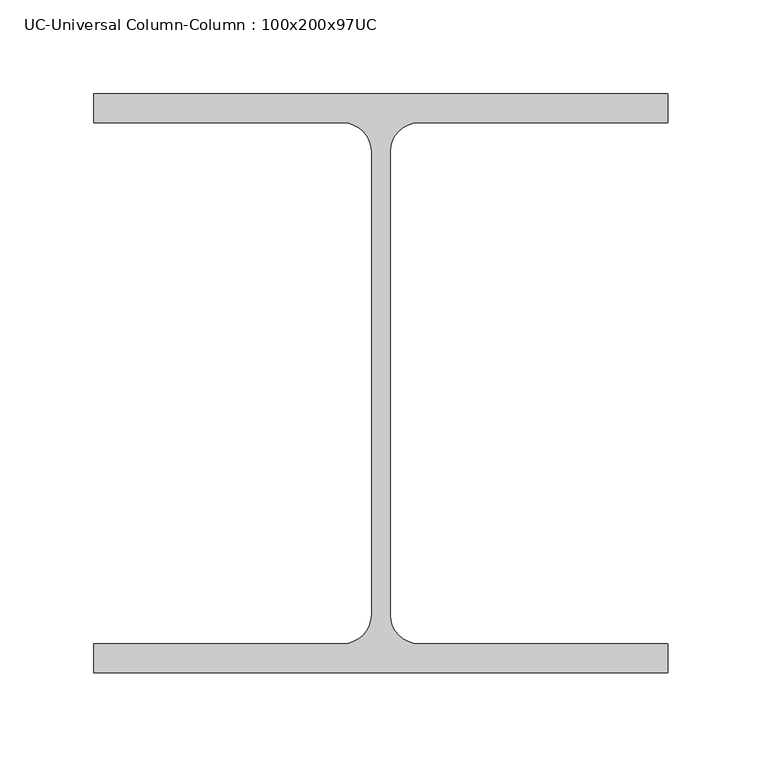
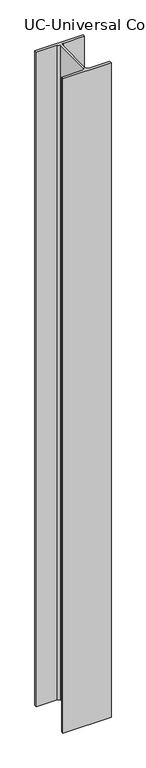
"""IFC4 building model written with IfcOpenShell, lengths in millimetres: column geometry, UC-Universal Column-Column : 100x200x97UC."""

import ifcopenshell
import ifcopenshell.guid

model = None  # the IFC model being written
_history = None  # IfcOwnerHistory: only IFC2X3 demands one
_inside = {}  # id of a spatial element -> (the spatial element, [elements in it])
_under = {}  # id of a project, library or spatial element -> (it, [spatial elements below it])
_declared = {}  # id of a project -> (the project, [libraries it declares])
_typed = {}  # id of a type object -> (the type object, [elements of that type])
_made_of = {}  # id of a material, layer set ... -> (it, [elements and type objects made of it])


def new_model(schema):
    """Start an empty IFC model of exactly this schema.

    Asked for "IFC4X3", IfcOpenShell would pick the latest addendum, in which some entities
    have other attributes; the version numbers below select the first issue.
    IFC2X3 requires an IfcOwnerHistory on every rooted entity: one is made here for all.
    """
    global model, _history
    if schema == "IFC4X3":
        model = ifcopenshell.file(schema_version=(4, 3, 0, 0))
    else:
        model = ifcopenshell.file(schema=schema)
    _inside.clear()
    _under.clear()
    _declared.clear()
    _typed.clear()
    _made_of.clear()
    _history = None
    if model.schema == "IFC2X3":
        org = make("IfcOrganization", Name="unknown")
        user = make(
            "IfcPersonAndOrganization",
            ThePerson=make("IfcPerson", FamilyName="unknown"),
            TheOrganization=org,
        )
        app = make(
            "IfcApplication",
            ApplicationDeveloper=org,
            Version="unknown",
            ApplicationFullName="unknown",
            ApplicationIdentifier="unknown",
        )
        _history = make(
            "IfcOwnerHistory",
            OwningUser=user,
            OwningApplication=app,
            ChangeAction="ADDED",
            CreationDate=0,
        )
    return model


def make(cls, **values):
    """One entity of the class cls with the attributes given. An attribute that is None is left unset."""
    return model.create_entity(
        cls, **{name: value for name, value in values.items() if value is not None}
    )


def rooted(cls, **values):
    """An entity with a GlobalId (a new one), such as an element, a storey or a relation."""
    return make(cls, GlobalId=ifcopenshell.guid.new(), OwnerHistory=_history, **values)


def si_unit(unit_type, name, prefix=None):
    """IfcSIUnit, for example si_unit("LENGTHUNIT", "METRE", prefix="MILLI")."""
    return make("IfcSIUnit", UnitType=unit_type, Prefix=prefix, Name=name)


def assignment(units):
    """IfcUnitAssignment: the units of a project."""
    return None if units is None else make("IfcUnitAssignment", Units=units)


def point(xyz):
    """IfcCartesianPoint."""
    return None if xyz is None else make("IfcCartesianPoint", Coordinates=xyz)


def direction(xyz):
    """IfcDirection."""
    return None if xyz is None else make("IfcDirection", DirectionRatios=xyz)


def frame(location, z_axis=None, x_axis=None):
    """IfcAxis2Placement3D, a coordinate frame: its origin and axes. An axis left out is left unset."""
    return make(
        "IfcAxis2Placement3D",
        Location=point(location),
        Axis=direction(z_axis),
        RefDirection=direction(x_axis),
    )


def frame_2d(location, x_axis=None):
    """IfcAxis2Placement2D, a coordinate frame in the plane: its origin and x axis."""
    return make(
        "IfcAxis2Placement2D", Location=point(location), RefDirection=direction(x_axis)
    )


def origin():
    """The frame at (0, 0, 0) with its axes left unset."""
    return frame((0.0, 0.0, 0.0))


def origin_with_axes():
    """The frame at (0, 0, 0) with the z axis (0, 0, 1) and the x axis (1, 0, 0) written out."""
    return frame((0.0, 0.0, 0.0), z_axis=(0.0, 0.0, 1.0), x_axis=(1.0, 0.0, 0.0))


def place(relative_to, where):
    """IfcLocalPlacement: puts the frame where relative to a parent placement (None: the world)."""
    return make(
        "IfcLocalPlacement", PlacementRelTo=relative_to, RelativePlacement=where
    )


def context(
    kind, dimensions, precision=None, world=None, true_north=None, identifier=None
):
    """IfcGeometricRepresentationContext, for example the 3D "Model" context."""
    return make(
        "IfcGeometricRepresentationContext",
        ContextIdentifier=identifier,
        ContextType=kind,
        CoordinateSpaceDimension=dimensions,
        Precision=precision,
        WorldCoordinateSystem=world,
        TrueNorth=true_north,
    )


def project(units=None, contexts=None):
    """IfcProject with its units and contexts."""
    return rooted(
        "IfcProject",
        Name="project",
        RepresentationContexts=contexts,
        UnitsInContext=assignment(units),
    )


def spatial(cls, under=None, at=None, **own):
    """A site, building, storey or space (cls), placed at a placement, below another one or the project."""
    s = rooted(cls, ObjectPlacement=at, **own)
    if under is not None:
        _under.setdefault(under.id(), (under, []))[1].append(s)
    return s


def polyline(points):
    """IfcPolyline through the points."""
    return make("IfcPolyline", Points=[point(p) for p in points])


def circle_curve(where, radius):
    """IfcCircle in the frame where."""
    return make("IfcCircle", Position=where, Radius=radius)


def trimmed(basis, trim1, trim2, sense, master):
    """IfcTrimmedCurve: the piece of a basis curve between two trims."""
    return make(
        "IfcTrimmedCurve",
        BasisCurve=basis,
        Trim1=trim1,
        Trim2=trim2,
        SenseAgreement=sense,
        MasterRepresentation=master,
    )


def segment(curve, same_sense, transition):
    """IfcCompositeCurveSegment."""
    return make(
        "IfcCompositeCurveSegment",
        Transition=transition,
        SameSense=same_sense,
        ParentCurve=curve,
    )


def composite_curve(segments, self_intersect=None):
    """IfcCompositeCurve: segments joined end to end."""
    return make("IfcCompositeCurve", Segments=segments, SelfIntersect=self_intersect)


def outline(outer, holes=None, kind="AREA"):
    """IfcArbitraryClosedProfileDef: a profile drawn as a closed curve; with holes, ...WithVoids."""
    if holes is None:
        return make("IfcArbitraryClosedProfileDef", ProfileType=kind, OuterCurve=outer)
    return make(
        "IfcArbitraryProfileDefWithVoids",
        ProfileType=kind,
        OuterCurve=outer,
        InnerCurves=holes,
    )


def extrude(swept, where, along, depth):
    """IfcExtrudedAreaSolid: the profile swept, set in the frame where, extruded along a direction by depth."""
    return make(
        "IfcExtrudedAreaSolid",
        SweptArea=swept,
        Position=where,
        ExtrudedDirection=direction(along),
        Depth=depth,
    )


def shape(context_of_items, identifier, shape_type, items):
    """IfcShapeRepresentation: the items that make up one representation, for example the "Body"."""
    return make(
        "IfcShapeRepresentation",
        ContextOfItems=context_of_items,
        RepresentationIdentifier=identifier,
        RepresentationType=shape_type,
        Items=items,
    )


def source(mapping_origin, context_of_items, identifier, shape_type, items):
    """IfcRepresentationMap: a shape defined once, which mapped items show again and again."""
    return make(
        "IfcRepresentationMap",
        MappingOrigin=mapping_origin,
        MappedRepresentation=shape(context_of_items, identifier, shape_type, items),
    )


def transform(
    local_origin,
    x_axis=None,
    y_axis=None,
    z_axis=None,
    scale=None,
    scale2=None,
    scale3=None,
    uniform=True,
):
    """IfcCartesianTransformationOperator3D, or its non-uniform kind. x_axis, y_axis, z_axis: its Axis1, 2, 3."""
    if uniform:
        return make(
            "IfcCartesianTransformationOperator3D",
            Axis1=direction(x_axis),
            Axis2=direction(y_axis),
            LocalOrigin=point(local_origin),
            Scale=scale,
            Axis3=direction(z_axis),
        )
    return make(
        "IfcCartesianTransformationOperator3DnonUniform",
        Axis1=direction(x_axis),
        Axis2=direction(y_axis),
        LocalOrigin=point(local_origin),
        Scale=scale,
        Axis3=direction(z_axis),
        Scale2=scale2,
        Scale3=scale3,
    )


def mapped(mapping_source, mapping_target):
    """IfcMappedItem: shows the shape of a source again, moved by a transform."""
    return make(
        "IfcMappedItem", MappingSource=mapping_source, MappingTarget=mapping_target
    )


def made_of(thing, what):
    """Note that an element or type object is made of a material, layer set ...; save() writes the relation."""
    if what is not None:
        _made_of.setdefault(what.id(), (what, []))[1].append(thing)
    return thing


def element(
    cls,
    number,
    at=None,
    inside=None,
    cuts=None,
    type_object=None,
    material=None,
    context=None,
    identifier="Body",
    shape_type=None,
    held_by="IfcProductDefinitionShape",
    body=None,
    shapes=None,
    **own,
):
    """One element of the class cls, such as IfcWall. Its Tag is "e" and its number.

    at: its placement. inside: the storey or other place that contains it. cuts: it is an
    opening in that element (IfcRelVoidsElement). A single representation is given by context,
    identifier, shape_type and body (its items); several are given by shapes. held_by: the class
    of the entity that holds the representations. save() writes the other relations.
    """
    e = rooted(cls, Tag="e%d" % number, ObjectPlacement=at, **own)
    if body is not None:
        shapes = [shape(context, identifier, shape_type, body)]
    if shapes is not None:
        e.Representation = make(held_by, Representations=shapes)
    if inside is not None:
        _inside.setdefault(inside.id(), (inside, []))[1].append(e)
    if cuts is not None:
        rooted(
            "IfcRelVoidsElement", RelatingBuildingElement=cuts, RelatedOpeningElement=e
        )
    if type_object is not None:
        _typed.setdefault(type_object.id(), (type_object, []))[1].append(e)
    return made_of(e, material)


def aggregate(whole, parts):
    """IfcRelAggregates: a whole, such as a stair, and the parts it consists of."""
    return rooted("IfcRelAggregates", RelatingObject=whole, RelatedObjects=parts)


def save(model, path):
    """Write the relations noted so far, then the file.

    IfcRelAggregates (storeys below a building ...), IfcRelContainedInSpatialStructure (elements
    in a storey), IfcRelDefinesByType, IfcRelAssociatesMaterial and IfcRelDeclares: one each for
    every whole, place, type object, material and project.
    """
    for whole, parts in _under.values():
        aggregate(whole, parts)
    for where, things in _inside.values():
        rooted(
            "IfcRelContainedInSpatialStructure",
            RelatedElements=things,
            RelatingStructure=where,
        )
    for kind, things in _typed.values():
        rooted("IfcRelDefinesByType", RelatedObjects=things, RelatingType=kind)
    for what, things in _made_of.values():
        rooted("IfcRelAssociatesMaterial", RelatedObjects=things, RelatingMaterial=what)
    for by, libraries in _declared.values():
        rooted("IfcRelDeclares", RelatingContext=by, RelatedDefinitions=libraries)
    model.write(path)


def uc_universal_column_column_100x200x97uc_c23a1a0a(model_context):
    return source(origin(), model_context, "Body", "SweptSolid", [
        extrude(outline(composite_curve([segment(polyline([(152.65, 153.95), (152.65, 138.55), (20.15, 138.55)]), True, "CONTINUOUS"), segment(trimmed(circle_curve(frame_2d((20.15, 123.35)), 15.2), [point((20.15, 138.55))], [point((4.95, 123.35))], True, "CARTESIAN"), True, "CONTINUOUS"), segment(polyline([(4.95, 123.35), (4.95, -123.35)]), True, "CONTINUOUS"), segment(trimmed(circle_curve(frame_2d((20.15, -123.35)), 15.2), [point((4.95, -123.35))], [point((20.15, -138.55))], True, "CARTESIAN"), True, "CONTINUOUS"), segment(polyline([(20.15, -138.55), (152.65, -138.55), (152.65, -153.95), (-152.65, -153.95), (-152.65, -138.55), (-20.15, -138.55)]), True, "CONTINUOUS"), segment(trimmed(circle_curve(frame_2d((-20.15, -123.35)), 15.2), [point((-20.15, -138.55))], [point((-4.95, -123.35))], True, "CARTESIAN"), True, "CONTINUOUS"), segment(polyline([(-4.95, -123.35), (-4.95, 123.35)]), True, "CONTINUOUS"), segment(trimmed(circle_curve(frame_2d((-20.15, 123.35)), 15.2), [point((-4.95, 123.35))], [point((-20.15, 138.55))], True, "CARTESIAN"), True, "CONTINUOUS"), segment(polyline([(-20.15, 138.55), (-152.65, 138.55), (-152.65, 153.95), (152.65, 153.95)]), True, "CONTINUOUS")], self_intersect=False)), origin_with_axes(), (0.0, 0.0, 1.0), 4390.0),
    ])


if __name__ == "__main__":
    model = new_model("IFC4")
    model_context = context("Model", 3, world=origin())
    ifc_project = project(units=[si_unit("LENGTHUNIT", "METRE", prefix="MILLI")], contexts=[model_context])
    site = spatial("IfcSite", under=ifc_project)
    building = spatial("IfcBuilding", under=site)
    placement = place(None, origin())
    uc_universal_column_column_100x200x97uc_shape = uc_universal_column_column_100x200x97uc_c23a1a0a(model_context)
    element("IfcColumn", 1, ObjectType="UC-Universal Column-Column : 100x200x97UC", at=placement, inside=building, context=model_context, shape_type="MappedRepresentation", body=[
        mapped(uc_universal_column_column_100x200x97uc_shape, transform((0.0, 0.0, 0.0), x_axis=(1.0, 0.0, 0.0), y_axis=(0.0, 1.0, 0.0), z_axis=(0.0, 0.0, 1.0))),
    ])
    save(model, "model.ifc")
